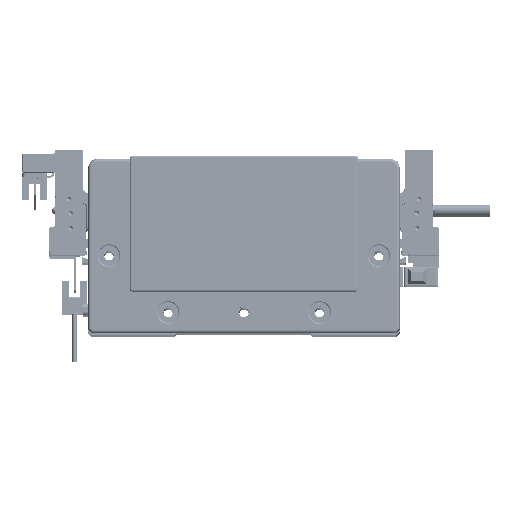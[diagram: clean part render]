
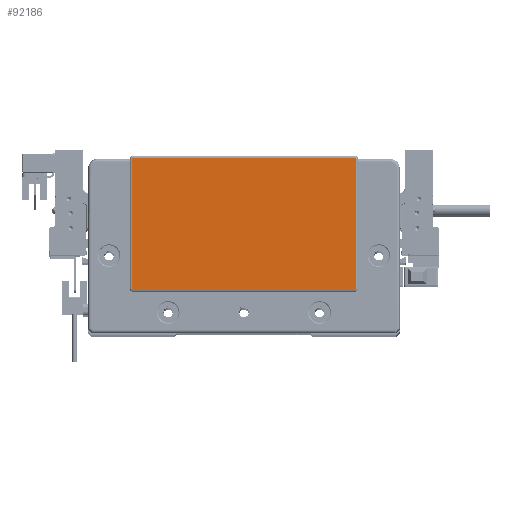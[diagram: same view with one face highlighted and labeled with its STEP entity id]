
A CAD part, top view. The second image highlights one B-rep face of the part: STEP entity #92186.
In plain terms, the highlighted planar face has unit normal (0, 0, 1) as drawn and (0, 0, -1) by its records, which use the part's own axes.
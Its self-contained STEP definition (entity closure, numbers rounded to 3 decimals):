
#110 = EDGE_LOOP ( 'NONE', ( #89566, #89086, #70538, #45722, #26801, #62740, #41764, #52760 ) ) ;
#926 = DIRECTION ( 'NONE',  ( -1., 0., 0. ) ) ;
#4114 = EDGE_CURVE ( 'NONE', #10599, #49402, #53221, .T. ) ;
#4544 = DIRECTION ( 'NONE',  ( -1., 0., 0. ) ) ;
#4663 = CARTESIAN_POINT ( 'NONE',  ( -58.75, -23.8, -2. ) ) ;
#6142 = CIRCLE ( 'NONE', #82673, 0.5 ) ;
#6340 = EDGE_CURVE ( 'NONE', #39459, #36897, #86752, .T. ) ;
#6663 = CARTESIAN_POINT ( 'NONE',  ( -59.25, -23.3, -2. ) ) ;
#9218 = AXIS2_PLACEMENT_3D ( 'NONE', #41996, #49997, #4544 ) ;
#10242 = CIRCLE ( 'NONE', #66070, 0.5 ) ;
#10357 = DIRECTION ( 'NONE',  ( -1., 0., 0. ) ) ;
#10599 = VERTEX_POINT ( 'NONE', #32162 ) ;
#10817 = DIRECTION ( 'NONE',  ( 0., 0., -1. ) ) ;
#10917 = CARTESIAN_POINT ( 'NONE',  ( -58.75, 45.8, -2. ) ) ;
#11287 = CARTESIAN_POINT ( 'NONE',  ( 58.75, -23.8, -2. ) ) ;
#12879 = VECTOR ( 'NONE', #63818, 1000. ) ;
#17570 = CARTESIAN_POINT ( 'NONE',  ( -58.75, -23.8, -2. ) ) ;
#17833 = CARTESIAN_POINT ( 'NONE',  ( 58.75, 45.3, -2. ) ) ;
#17974 = CARTESIAN_POINT ( 'NONE',  ( -59.25, 45.3, -2. ) ) ;
#18065 = CARTESIAN_POINT ( 'NONE',  ( 58.75, 45.8, -2. ) ) ;
#19327 = CARTESIAN_POINT ( 'NONE',  ( 58.75, 45.8, -2. ) ) ;
#21114 = CARTESIAN_POINT ( 'NONE',  ( 59.25, -23.3, -2. ) ) ;
#25301 = CARTESIAN_POINT ( 'NONE',  ( -58.75, -23.3, -2. ) ) ;
#26801 = ORIENTED_EDGE ( 'NONE', *, *, #63382, .T. ) ;
#27301 = FACE_OUTER_BOUND ( 'NONE', #110, .T. ) ;
#28384 = CIRCLE ( 'NONE', #9218, 0.5 ) ;
#30905 = AXIS2_PLACEMENT_3D ( 'NONE', #46605, #48086, #46101 ) ;
#31490 = CARTESIAN_POINT ( 'NONE',  ( 0., 0., -2. ) ) ;
#32162 = CARTESIAN_POINT ( 'NONE',  ( 59.25, -23.3, -2. ) ) ;
#36897 = VERTEX_POINT ( 'NONE', #18065 ) ;
#37902 = EDGE_CURVE ( 'NONE', #47713, #39459, #28384, .T. ) ;
#39459 = VERTEX_POINT ( 'NONE', #10917 ) ;
#41764 = ORIENTED_EDGE ( 'NONE', *, *, #6340, .T. ) ;
#41996 = CARTESIAN_POINT ( 'NONE',  ( -58.75, 45.3, -2. ) ) ;
#45110 = DIRECTION ( 'NONE',  ( 0., -1., 0. ) ) ;
#45722 = ORIENTED_EDGE ( 'NONE', *, *, #85406, .T. ) ;
#46101 = DIRECTION ( 'NONE',  ( -1., 0., 0. ) ) ;
#46605 = CARTESIAN_POINT ( 'NONE',  ( 58.75, -23.3, -2. ) ) ;
#47713 = VERTEX_POINT ( 'NONE', #17974 ) ;
#48086 = DIRECTION ( 'NONE',  ( 0., 0., -1. ) ) ;
#48772 = VERTEX_POINT ( 'NONE', #17570 ) ;
#49315 = PLANE ( 'NONE',  #74066 ) ;
#49402 = VERTEX_POINT ( 'NONE', #11287 ) ;
#49997 = DIRECTION ( 'NONE',  ( 0., 0., -1. ) ) ;
#52122 = CARTESIAN_POINT ( 'NONE',  ( 59.25, 45.3, -2. ) ) ;
#52760 = ORIENTED_EDGE ( 'NONE', *, *, #77291, .T. ) ;
#53221 = CIRCLE ( 'NONE', #30905, 0.5 ) ;
#57818 = VECTOR ( 'NONE', #59063, 1000. ) ;
#59063 = DIRECTION ( 'NONE',  ( -1., 0., 0. ) ) ;
#62740 = ORIENTED_EDGE ( 'NONE', *, *, #37902, .T. ) ;
#63382 = EDGE_CURVE ( 'NONE', #86006, #47713, #82268, .T. ) ;
#63818 = DIRECTION ( 'NONE',  ( 1., 0., 0. ) ) ;
#66070 = AXIS2_PLACEMENT_3D ( 'NONE', #25301, #10817, #94681 ) ;
#70538 = ORIENTED_EDGE ( 'NONE', *, *, #90323, .T. ) ;
#73345 = VECTOR ( 'NONE', #45110, 1000. ) ;
#73803 = DIRECTION ( 'NONE',  ( 0., 1., 0. ) ) ;
#74066 = AXIS2_PLACEMENT_3D ( 'NONE', #31490, #80719, #10357 ) ;
#77291 = EDGE_CURVE ( 'NONE', #36897, #86059, #6142, .T. ) ;
#79772 = EDGE_CURVE ( 'NONE', #86059, #10599, #88539, .T. ) ;
#80719 = DIRECTION ( 'NONE',  ( 0., 0., -1. ) ) ;
#82268 = LINE ( 'NONE', #88272, #95317 ) ;
#82673 = AXIS2_PLACEMENT_3D ( 'NONE', #17833, #92261, #926 ) ;
#85406 = EDGE_CURVE ( 'NONE', #48772, #86006, #10242, .T. ) ;
#86006 = VERTEX_POINT ( 'NONE', #6663 ) ;
#86059 = VERTEX_POINT ( 'NONE', #52122 ) ;
#86752 = LINE ( 'NONE', #19327, #12879 ) ;
#88272 = CARTESIAN_POINT ( 'NONE',  ( -59.25, 45.3, -2. ) ) ;
#88539 = LINE ( 'NONE', #21114, #73345 ) ;
#89086 = ORIENTED_EDGE ( 'NONE', *, *, #4114, .T. ) ;
#89566 = ORIENTED_EDGE ( 'NONE', *, *, #79772, .T. ) ;
#90323 = EDGE_CURVE ( 'NONE', #49402, #48772, #95981, .T. ) ;
#92186 = ADVANCED_FACE ( 'NONE', ( #27301 ), #49315, .T. ) ;
#92261 = DIRECTION ( 'NONE',  ( 0., 0., -1. ) ) ;
#94681 = DIRECTION ( 'NONE',  ( -1., 0., 0. ) ) ;
#95317 = VECTOR ( 'NONE', #73803, 1000. ) ;
#95981 = LINE ( 'NONE', #4663, #57818 ) ;
